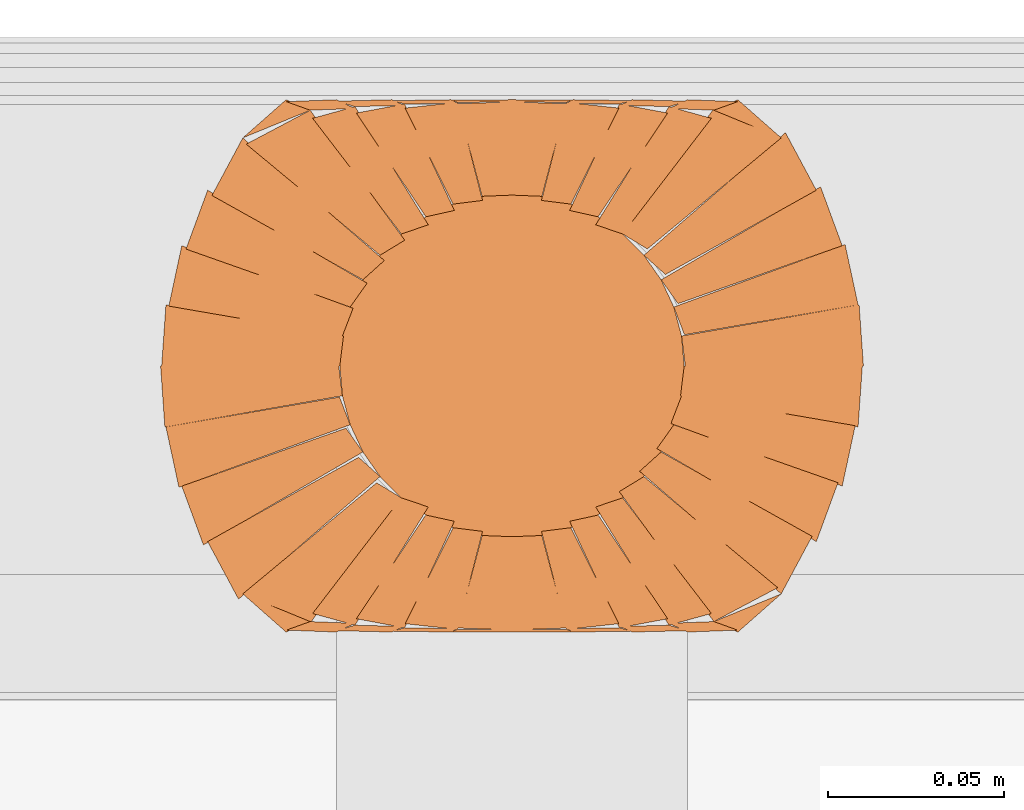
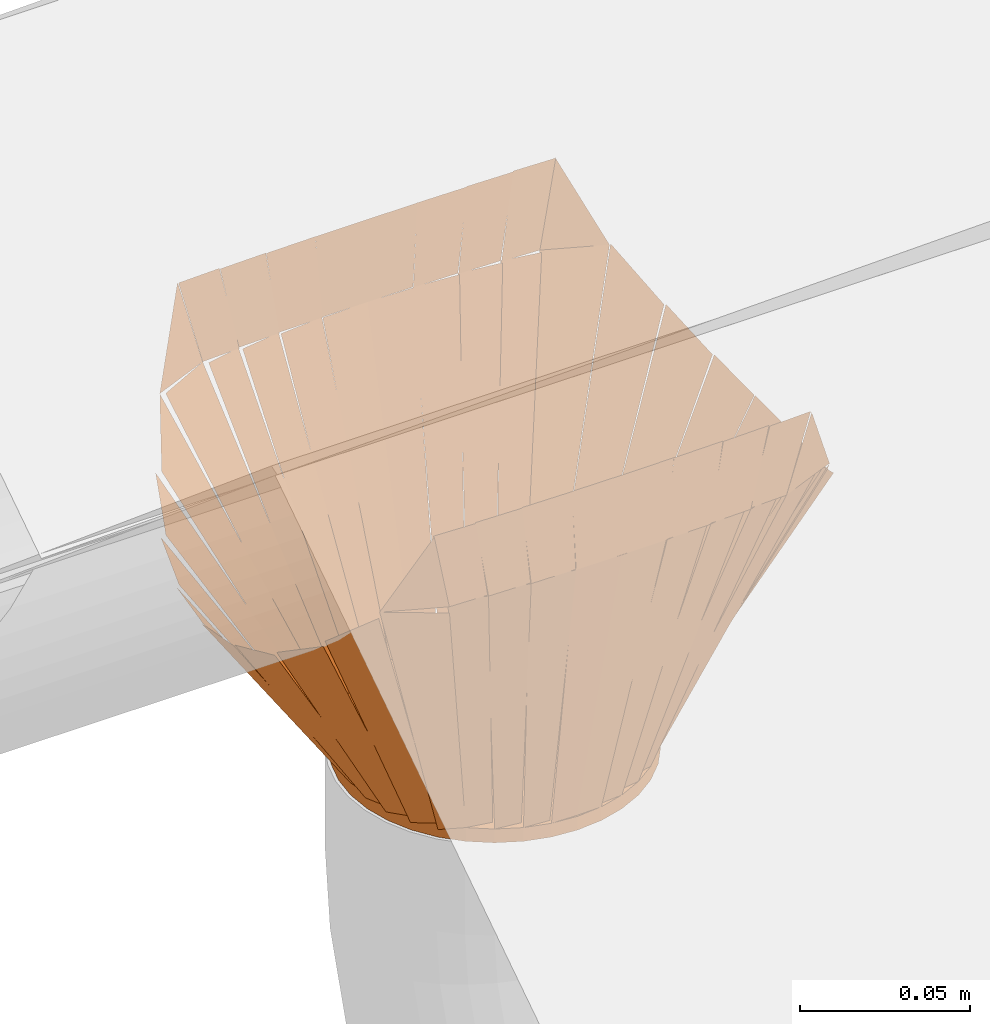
# One storey, part 43 of 43: 1 proxy.
"""IFC2X3 building model written with IfcOpenShell, lengths in millimetres."""

from ifc_helpers import new_model, si_unit, frame, origin_with_axes, place, context, project, spatial, faceted_brep, element, save


model = new_model("IFC2X3")

# Units and contexts
model_context = context("Model", 3, world=origin_with_axes())
ifc_project = project(units=[si_unit("LENGTHUNIT", "METRE", prefix="MILLI")], contexts=[model_context])

# Site, building, storey
site_placement = place(None, origin_with_axes())
site = spatial("IfcSite", under=ifc_project, at=site_placement, Name="Site", CompositionType="ELEMENT")
building_placement = place(site_placement, origin_with_axes())
building = spatial("IfcBuilding", under=site, at=building_placement, Name="?", CompositionType="ELEMENT")
storey_placement = place(building_placement, frame((0.0, 0.0, 5938.0), z_axis=(0.0, 0.0, 1.0), x_axis=(1.0, 0.0, 0.0)))
storey = spatial("IfcBuildingStorey", under=building, at=storey_placement, Name="Dachgeschoß", CompositionType="ELEMENT", Elevation=5938.0)

# Proxy
proxy_placement = place(None, origin_with_axes())
element("IfcBuildingElementProxy", 1, at=proxy_placement, inside=storey, Name="Dach01_Sump#002", ObjectType="sump", CompositionType="ELEMENT", context=model_context, shape_type="Brep", body=[
    faceted_brep([(18150.0, 579.010009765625, 6505.79443359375), (18099.3009021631, 578.967993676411, 6580.93962337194), (18100.51919832, 596.374810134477, 6582.73663250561), (18151.0453037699, 587.476793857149, 6505.99742441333), (18150.744140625, 587.518798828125, 6505.79443359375), (18101.3352258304, 596.022364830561, 6583.29570176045), (18105.0304413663, 613.211998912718, 6588.73663108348), (18153.7711254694, 595.416564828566, 6506.3535043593), (18152.955078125, 595.768981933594, 6505.79443359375), (18106.2325958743, 612.249947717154, 6589.59595129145), (18112.3974771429, 629.00998161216, 6599.73663675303), (18157.7666971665, 602.547947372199, 6506.65374850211), (18156.564453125, 603.510009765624, 6505.79443359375), (18113.6078970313, 627.506340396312, 6600.66517917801), (18122.3952512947, 643.888809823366, 6615.73663103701), (18162.674199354, 609.002940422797, 6506.72298136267), (18161.462890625, 610.506591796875, 6505.79443359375), (18123.3709635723, 642.11923380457, 6616.57727050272), (18141.5741907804, 651.762690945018, 6615.73663044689), (18168.4787639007, 614.776634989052, 6506.63507364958), (18167.50390625, 616.546203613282, 6505.79443359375), (18142.2620586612, 649.473509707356, 6616.57347435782), (18154.3318061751, 652.786904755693, 6615.73663420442), (18175.1869588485, 619.156008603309, 6506.63127382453), (18174.5, 621.445190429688, 6505.79443359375), (18154.6954994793, 650.963182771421, 6616.28910531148), (18168.444800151, 653.541589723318, 6615.73663567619), (18182.6051987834, 623.231183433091, 6506.3469032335), (18182.240234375, 625.054870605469, 6505.79443359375), (18168.5781089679, 652.373219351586, 6616.04275099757), (18183.4859343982, 654.003770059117, 6615.73663149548), (18190.6245093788, 626.097219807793, 6506.10055309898), (18190.490234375, 627.265625, 6505.79443359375), (18183.5007801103, 653.602238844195, 6615.83370153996), (18198.9990342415, 654.159424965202, 6615.7366309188), (18199.0140798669, 627.608438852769, 6505.89150420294), (18207.509765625, 627.265625, 6505.79443359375), (18198.9859201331, 627.608438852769, 6505.89150420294), (18199.0009657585, 654.159424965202, 6615.7366309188), (18214.4992198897, 653.602238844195, 6615.83370153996), (18215.759765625, 625.05487060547, 6505.79443359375), (18207.3754906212, 626.097219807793, 6506.10055309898), (18214.5140656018, 654.003770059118, 6615.73663149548), (18229.4218910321, 652.373219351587, 6616.04275099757), (18223.5, 621.445190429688, 6505.79443359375), (18215.3948012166, 623.23118343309, 6506.3469032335), (18229.555199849, 653.541589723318, 6615.73663567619), (18243.3045005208, 650.96318277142, 6616.28910531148), (18230.49609375, 616.546203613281, 6505.79443359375), (18222.8130411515, 619.156008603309, 6506.63127382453), (18243.6681938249, 652.786904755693, 6615.73663420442), (18255.7379413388, 649.473509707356, 6616.57347435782), (18230.49609375, 616.546203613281, 6505.79443359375), (18257.4006668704, 653.532259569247, 6614.89599039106), (18275.6038940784, 643.8888024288, 6615.73663044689), (18237.5119670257, 612.276160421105, 6504.95379353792), (18236.537109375, 610.506591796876, 6505.79443359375), (18276.8160574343, 645.392461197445, 6614.80808326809), (18285.6034116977, 629.009991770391, 6599.73663140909), (18242.646855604, 605.013661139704, 6504.86588582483), (18241.435546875, 603.510009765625, 6505.79443359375), (18286.8047668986, 629.972044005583, 6598.87732184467), (18292.9696481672, 613.212010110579, 6588.7366363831), (18246.2471659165, 596.731044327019, 6504.93511868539), (18245.044921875, 595.768981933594, 6505.79443359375), (18293.7856120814, 613.564421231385, 6588.17755842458), (18297.48081917, 596.374881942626, 6582.73663496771), (18248.0719145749, 587.871220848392, 6505.23535685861), (18247.255859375, 587.518798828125, 6505.79443359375), (18297.7819585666, 596.416914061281, 6582.5336459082), (18299.000257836, 579.009999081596, 6580.73663465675), (18248.3011600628, 579.052014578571, 6505.59144481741), (18248.0, 579.010009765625, 6505.79443359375), (18298.6991032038, 579.052025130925, 6580.93961803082), (18297.4808005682, 561.645209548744, 6582.73663139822), (18246.9547025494, 570.543325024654, 6505.99742015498), (18247.255859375, 570.501281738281, 6505.79443359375), (18296.6647566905, 561.997622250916, 6583.29571912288), (18292.9695595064, 544.807981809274, 6588.7366358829), (18244.228856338, 562.603422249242, 6506.35351666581), (18245.044921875, 562.250976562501, 6505.79443359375), (18291.7673797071, 545.770016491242, 6589.59596421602), (18285.6026211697, 529.009975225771, 6599.73663640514), (18240.2333806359, 555.472017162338, 6506.65376173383), (18241.435546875, 554.510009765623, 6505.79443359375), (18284.3921178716, 530.513671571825, 6600.66517290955), (18275.6047458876, 514.131308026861, 6615.73663441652), (18235.3257184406, 549.017072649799, 6506.72297220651), (18236.537109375, 547.513427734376, 6505.79443359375), (18274.6291411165, 515.900862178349, 6616.5772624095), (18256.4259092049, 506.257327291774, 6615.7366306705), (18229.5212414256, 543.243362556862, 6506.63506533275), (18230.49609375, 541.473815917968, 6505.79443359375), (18255.7380417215, 508.546520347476, 6616.5734784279), (18243.668193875, 505.233114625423, 6615.73663476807), (18222.813041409, 538.864021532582, 6506.63127727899), (18223.5, 536.574829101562, 6505.79443359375), (18243.3045005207, 507.056836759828, 6616.28910531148), (18229.555199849, 504.478429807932, 6615.73663567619), (18215.3948012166, 534.788836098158, 6506.3469032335), (18215.759765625, 532.965087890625, 6505.79443359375), (18229.4218910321, 505.646739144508, 6616.04275099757), (18214.5140656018, 504.016188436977, 6615.73663149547), (18207.3754906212, 531.9227386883, 6506.10055309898), (18207.509765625, 530.75439453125, 6505.79443359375), (18214.4992198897, 504.417780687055, 6615.83370153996), (18199.0009657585, 503.860594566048, 6615.7366309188), (18198.9859201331, 530.411580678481, 6505.89150420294), (18190.4921875, 530.75439453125, 6505.79443359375), (18199.0159332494, 530.411581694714, 6505.89150445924), (18199.0008874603, 503.86059390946, 6615.73663117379), (18183.5027333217, 504.417781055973, 6615.83370203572), (18182.240234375, 532.965087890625, 6505.79443359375), (18190.6246081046, 531.922732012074, 6506.10055124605), (18183.4860344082, 504.016188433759, 6615.73663560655), (18168.5782075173, 505.646732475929, 6616.04275325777), (18174.5, 536.57470703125, 6505.79443359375), (18182.6051803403, 534.788761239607, 6506.34688478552), (18168.4448998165, 504.478405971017, 6615.73663578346), (18154.6955794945, 507.056760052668, 6616.28908697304), (18167.50390625, 541.473815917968, 6505.79443359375), (18175.1869841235, 538.863968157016, 6506.63129507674), (18154.3319061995, 505.233115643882, 6615.73663264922), (18142.2620839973, 508.546568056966, 6616.57349410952), (18167.50390625, 541.473815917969, 6505.79443359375), (18140.5993331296, 504.487759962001, 6614.89599039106), (18122.3961059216, 514.13121710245, 6615.73663044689), (18160.4880329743, 545.743859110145, 6504.95379353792), (18161.462890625, 547.513427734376, 6505.79443359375), (18121.1839375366, 512.627539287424, 6614.80807921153), (18112.3965911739, 529.009928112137, 6599.73663630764), (18155.3531362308, 553.006338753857, 6504.86587603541), (18156.564453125, 554.510009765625, 6505.79443359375), (18111.195245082, 528.047891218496, 6598.87732511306), (18105.0304521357, 544.807910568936, 6588.73663091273), (18151.7528460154, 561.288990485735, 6504.93512814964), (18152.955078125, 562.250976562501, 6505.79443359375), (18104.2144727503, 544.455431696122, 6588.17755185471), (18100.5191762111, 561.645076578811, 6582.73663560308), (18149.928075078, 570.148731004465, 6505.23534983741), (18150.744140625, 570.501220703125, 6505.79443359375), (18100.2180414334, 561.603105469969, 6582.5336459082), (18098.999742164, 579.010020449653, 6580.73663465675), (18149.6988399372, 578.968004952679, 6505.59144481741), (18141.57421875, 651.7626953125, 6615.736328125), (18122.3947181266, 643.888794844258, 6615.736328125), (18134.7203185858, 654.749995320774, 6645.00632737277), (18149.0, 654.75, 6645.00634765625), (18154.3515904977, 652.251305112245, 6615.78586307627), (18141.5751001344, 651.76269994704, 6615.73634729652), (18134.7414908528, 654.214405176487, 6645.05586343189), (18164.798828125, 654.75, 6645.00634765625), (18168.4556450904, 653.144589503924, 6615.7593924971), (18154.3321282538, 652.786899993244, 6615.7363475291), (18149.0108453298, 654.352989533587, 6645.02939262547), (18181.634765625, 654.75, 6645.00634765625), (18183.4897999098, 653.760031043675, 6615.74481863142), (18168.4443656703, 653.541600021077, 6615.73634744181), (18164.801099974, 654.506231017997, 6645.01481884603), (18199.0, 654.75, 6645.00634765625), (18199.0003887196, 654.077264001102, 6615.73823528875), (18183.4867001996, 654.003800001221, 6615.73634736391), (18181.635588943, 654.667863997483, 6645.00823558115), (18214.513671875, 654.003784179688, 6615.736328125), (18198.999983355, 654.077248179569, 6615.73821604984), (18199.0003720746, 654.749984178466, 6645.00632841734), (18216.3647831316, 654.66784817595, 6645.00821634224), (18229.5546875, 653.541625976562, 6615.736328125), (18214.5092532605, 653.760056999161, 6615.74479931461), (18216.3642875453, 654.750025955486, 6645.00632833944), (18233.1979531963, 654.506256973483, 6645.01479952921), (18243.66796875, 652.786926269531, 6615.736328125), (18229.5444519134, 653.144615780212, 6615.75937309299), (18233.2012688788, 654.750026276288, 6645.00632825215), (18248.989251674, 654.353015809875, 6645.02937322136), (18256.42578125, 651.7626953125, 6615.736328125), (18243.6492908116, 652.251302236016, 6615.78584371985), (18249.0008813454, 654.749995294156, 6645.00632838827), (18263.2592905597, 654.214402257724, 6645.05584398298), (18275.603515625, 643.888793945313, 6615.736328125), (18256.4240150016, 651.762694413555, 6615.736328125), (18263.2778151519, 654.749994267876, 6645.00632773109), (18256.42578125, 506.257293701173, 6615.736328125), (18275.6052811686, 514.131293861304, 6615.736328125), (18263.279581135, 503.269993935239, 6645.00632830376), (18249.0, 503.269989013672, 6645.00634765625), (18243.6484096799, 505.768681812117, 6615.78586309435), (18256.4249998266, 506.25728894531, 6615.73634755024), (18263.258509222, 503.805581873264, 6645.05586320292), (18233.201171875, 503.269989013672, 6645.00634765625), (18229.5443549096, 504.875399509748, 6615.75939249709), (18243.6678717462, 505.233089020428, 6615.7363475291), (18248.9891546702, 503.666999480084, 6645.02939262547), (18216.365234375, 503.269989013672, 6645.00634765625), (18214.5101000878, 504.259957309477, 6615.74481858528), (18229.5555343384, 504.478389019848, 6615.73634741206), (18233.1988000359, 503.513757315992, 6645.01481882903), (18199.0, 503.269989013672, 6645.00634765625), (18198.9996112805, 503.942725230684, 6615.73823528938), (18214.5132997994, 504.016189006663, 6615.73634735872), (18216.364511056, 503.352125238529, 6645.00823558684), (18183.486328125, 504.016204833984, 6615.736328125), (18198.9999166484, 503.942741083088, 6615.73821605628), (18198.9995279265, 503.27000481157, 6645.00632842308), (18181.6351168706, 503.352141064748, 6645.00821635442), (18168.4453125, 504.478393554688, 6615.736328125), (18183.4907467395, 504.259962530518, 6615.74479932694), (18181.6356124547, 503.269993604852, 6645.00632839), (18164.8019468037, 503.513762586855, 6645.01479959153), (18154.33203125, 505.233093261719, 6615.736328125), (18168.45554812, 504.875402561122, 6615.75937304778), (18164.7986311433, 503.269993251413, 6645.00632834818), (18149.0107483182, 503.667002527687, 6645.02937326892), (18141.57421875, 506.257293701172, 6615.736328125), (18154.3508088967, 505.768686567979, 6615.7858436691), (18148.9992185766, 503.269993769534, 6645.00632823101), (18134.7407093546, 503.805586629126, 6645.05584377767), (18122.396484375, 514.131225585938, 6615.736328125), (18141.5759849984, 506.257325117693, 6615.736328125), (18134.7221848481, 503.270025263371, 6645.00632773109), (18150.0, 579.010009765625, 6500.82421875), (18150.0, 579.010009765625, 6505.79421875), (18150.7444000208, 587.518809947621, 6505.79421875), (18150.7444000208, 587.518809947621, 6500.82421875), (18150.744140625, 587.518798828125, 6500.82421875), (18150.744140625, 587.518798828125, 6505.79421875), (18152.9548405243, 595.76899881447, 6505.79421875), (18152.9548405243, 595.76899881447, 6500.82421875), (18152.955078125, 595.768981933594, 6500.82421875), (18152.955078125, 595.768981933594, 6505.79421875), (18156.5647781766, 603.509981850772, 6505.79421875), (18156.5647781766, 603.509981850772, 6500.82421875), (18156.564453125, 603.510009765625, 6500.82421875), (18156.564453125, 603.510009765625, 6505.79421875), (18161.4634532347, 610.506609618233, 6505.79421875), (18161.4634532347, 610.506609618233, 6500.82421875), (18161.462890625, 610.506591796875, 6500.82421875), (18161.462890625, 610.506591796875, 6505.79421875), (18167.5024905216, 616.546191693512, 6505.79421875), (18167.5024905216, 616.546191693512, 6500.82421875), (18167.50390625, 616.546203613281, 6500.82421875), (18167.50390625, 616.546203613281, 6505.79421875), (18174.5005061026, 621.445203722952, 6505.79421875), (18174.5005061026, 621.445203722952, 6500.82421875), (18174.5, 621.445190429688, 6500.82421875), (18174.5, 621.445190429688, 6505.79421875), (18182.2409999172, 625.054890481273, 6505.79421875), (18182.2409999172, 625.054890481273, 6500.82421875), (18182.240234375, 625.054870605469, 6500.82421875), (18182.240234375, 625.054870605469, 6505.79421875), (18190.4904343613, 627.265570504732, 6505.79421875), (18190.4904343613, 627.265570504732, 6500.82421875), (18190.490234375, 627.265625, 6500.82421875), (18190.490234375, 627.265625, 6505.79421875), (18198.999034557, 628.010025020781, 6505.79421875), (18198.999034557, 628.010025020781, 6500.82421875), (18199.0, 628.010009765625, 6500.82421875), (18199.0, 628.010009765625, 6505.79421875), (18207.508800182, 627.265609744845, 6505.79421875), (18207.508800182, 627.265609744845, 6500.82421875), (18207.509765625, 627.265625, 6500.82421875), (18207.509765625, 627.265625, 6505.79421875), (18215.7599656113, 625.054925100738, 6505.79421875), (18215.7599656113, 625.054925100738, 6500.82421875), (18215.759765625, 625.054870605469, 6500.82421875), (18215.759765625, 625.054870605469, 6505.79421875), (18223.5007655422, 621.445170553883, 6505.79421875), (18223.5007655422, 621.445170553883, 6500.82421875), (18223.5, 621.445190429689, 6500.82421875), (18223.5, 621.445190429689, 6505.79421875), (18230.4965998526, 616.546190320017, 6505.79421875), (18230.4965998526, 616.546190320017, 6500.82421875), (18230.49609375, 616.546203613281, 6500.82421875), (18230.49609375, 616.546203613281, 6505.79421875), (18236.5356936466, 610.506603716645, 6505.79421875), (18236.5356936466, 610.506603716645, 6500.82421875), (18236.537109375, 610.506591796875, 6500.82421875), (18236.537109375, 610.506591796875, 6505.79421875), (18241.4361094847, 603.509991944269, 6505.79421875), (18241.4361094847, 603.509991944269, 6500.82421875), (18241.435546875, 603.510009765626, 6500.82421875), (18241.435546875, 603.510009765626, 6505.79421875), (18245.0452469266, 595.769009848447, 6505.79421875), (18245.0452469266, 595.769009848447, 6500.82421875), (18245.044921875, 595.768981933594, 6500.82421875), (18245.044921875, 595.768981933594, 6505.79421875), (18247.2556217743, 587.518781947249, 6505.79421875), (18247.2556217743, 587.518781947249, 6500.82421875), (18247.255859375, 587.518798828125, 6500.82421875), (18247.255859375, 587.518798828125, 6505.79421875), (18248.0002593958, 579.009998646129, 6505.79421875), (18248.0002593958, 579.009998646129, 6500.82421875), (18248.0, 579.010009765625, 6500.82421875), (18248.0, 579.010009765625, 6505.79421875), (18247.2556000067, 570.501309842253, 6505.79421875), (18247.2556000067, 570.501309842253, 6500.82421875), (18247.255859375, 570.501281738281, 6500.82421875), (18247.255859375, 570.501281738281, 6505.79421875), (18245.0451594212, 562.250981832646, 6505.79421875), (18245.0451594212, 562.250981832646, 6500.82421875), (18245.044921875, 562.2509765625, 6500.82421875), (18245.044921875, 562.2509765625, 6505.79421875), (18241.4353219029, 554.509976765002, 6505.79421875), (18241.4353219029, 554.509976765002, 6500.82421875), (18241.435546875, 554.510009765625, 6500.82421875), (18241.435546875, 554.510009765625, 6505.79421875), (18236.5364466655, 547.513409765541, 6505.79421875), (18236.5364466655, 547.513409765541, 6500.82421875), (18236.537109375, 547.513427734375, 6500.82421875), (18236.537109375, 547.513427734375, 6505.79421875), (18230.4975094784, 541.473827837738, 6505.79421875), (18230.4975094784, 541.473827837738, 6500.82421875), (18230.49609375, 541.473815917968, 6500.82421875), (18230.49609375, 541.473815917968, 6505.79421875), (18223.4994938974, 536.574815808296, 6505.79421875), (18223.4994938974, 536.574815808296, 6500.82421875), (18223.5, 536.574829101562, 6500.82421875), (18223.5, 536.574829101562, 6505.79421875), (18215.7590000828, 532.965129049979, 6505.79421875), (18215.7590000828, 532.965129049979, 6500.82421875), (18215.759765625, 532.965087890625, 6500.82421875), (18215.759765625, 532.965087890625, 6505.79421875), (18207.5095656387, 530.754387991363, 6505.79421875), (18207.5095656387, 530.754387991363, 6500.82421875), (18207.509765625, 530.75439453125, 6500.82421875), (18207.509765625, 530.75439453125, 6505.79421875), (18199.000965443, 530.00999451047, 6505.79421875), (18199.000965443, 530.00999451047, 6500.82421875), (18199.0, 530.010009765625, 6500.82421875), (18199.0, 530.010009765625, 6505.79421875), (18190.4913000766, 530.754409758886, 6505.79421875), (18190.4913000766, 530.754409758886, 6500.82421875), (18190.4921875, 530.754394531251, 6500.82421875), (18190.4921999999, 530.754441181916, 6505.79421874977), (18182.2418873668, 532.965094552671, 6505.79421875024), (18182.2418998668, 532.96504120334, 6500.82421874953), (18182.240234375, 532.965026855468, 6500.82421875), (18182.240215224, 532.965085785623, 6505.79421875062), (18174.4992342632, 536.574726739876, 6505.79421875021), (18174.4992151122, 536.574685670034, 6500.82421875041), (18174.5, 536.57470703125, 6500.82421875), (18174.5, 536.57470703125, 6505.79421875), (18167.5033999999, 541.473807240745, 6505.79421875), (18167.5033999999, 541.473807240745, 6500.82421875), (18167.50390625, 541.473815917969, 6500.82421875), (18167.50390625, 541.473815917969, 6505.79421875), (18161.4643063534, 547.513415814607, 6505.79421875), (18161.4643063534, 547.513415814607, 6500.82421875), (18161.462890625, 547.513427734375, 6500.82421875), (18161.462890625, 547.513427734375, 6505.79421875), (18156.5638905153, 554.510027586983, 6505.79421875), (18156.5638905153, 554.510027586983, 6500.82421875), (18156.564453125, 554.510009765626, 6500.82421875), (18156.564453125, 554.510009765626, 6505.79421875), (18152.9547530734, 562.251009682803, 6505.79421875), (18152.9547530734, 562.251009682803, 6500.82421875), (18152.955078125, 562.2509765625, 6500.82421875), (18152.955078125, 562.2509765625, 6505.79421875), (18150.7443782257, 570.501176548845, 6505.79421875), (18150.7443782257, 570.501176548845, 6500.82421875), (18150.744140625, 570.501220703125, 6500.82421875), (18150.744140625, 570.501220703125, 6505.79421875), (18149.9997406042, 579.01002088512, 6505.79421875), (18149.9997406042, 579.01002088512, 6500.82421875), (18152.955078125, 562.2509765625, 6500.82421875), (18149.999978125, 579.0099765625, 6500.82421875), (18161.463778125, 547.5133765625, 6500.82421875), (18156.564778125, 554.5099765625, 6500.82421875), (18161.462890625, 547.513427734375, 6500.82421875), (18190.490390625, 530.754427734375, 6500.82421875), (18174.499090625, 536.574727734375, 6500.82421875), (18167.502490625, 541.473827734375, 6500.82421875), (18174.5, 536.57470703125, 6500.82421875), (18190.4913, 530.75440703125, 6500.82421875), (18182.241, 532.96500703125, 6500.82421875), (18190.4921875, 530.75439453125, 6500.82421875), (18223.5008875, 536.57479453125, 6500.82421875), (18207.5096875, 530.75439453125, 6500.82421875), (18199.0008875, 530.00999453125, 6500.82421875), (18207.509765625, 530.75439453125, 6500.82421875), (18223.500965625, 536.57479453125, 6500.82421875), (18215.759965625, 532.96509453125, 6500.82421875), (18223.5, 536.574829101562, 6500.82421875), (18245.0449, 562.251029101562, 6500.82421875), (18236.5362, 547.513429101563, 6500.82421875), (18230.4966, 541.473829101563, 6500.82421875), (18236.537109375, 547.513427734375, 6500.82421875), (18245.045809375, 562.251027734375, 6500.82421875), (18241.436209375, 554.510027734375, 6500.82421875), (18190.4921875, 530.75439453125, 6500.82421875), (18161.4646875, 610.50659453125, 6500.82421875), (18245.0457875, 562.25099453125, 6500.82421875), (18223.5008875, 536.57479453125, 6500.82421875), (18245.044921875, 562.2509765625, 6500.82421875), (18245.044921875, 595.7689765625, 6500.82421875), (18248.000021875, 579.0099765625, 6500.82421875), (18247.255621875, 570.5012765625, 6500.82421875), (18248.0, 579.010009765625, 6500.82421875), (18245.0449, 595.769009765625, 6500.82421875), (18247.2556, 587.518809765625, 6500.82421875), (18245.044921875, 595.768981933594, 6500.82421875), (18223.500021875, 621.445181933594, 6500.82421875), (18236.536221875, 610.506581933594, 6500.82421875), (18241.435221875, 603.509981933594, 6500.82421875), (18236.537109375, 610.506591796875, 6500.82421875), (18223.500909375, 621.445191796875, 6500.82421875), (18230.497509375, 616.546191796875, 6500.82421875), (18245.044921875, 562.2509765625, 6500.82421875), (18161.463821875, 610.5065765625, 6500.82421875), (18223.500021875, 621.4451765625, 6500.82421875), (18245.044921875, 595.7689765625, 6500.82421875), (18223.5, 621.445190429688, 6500.82421875), (18190.4912, 627.265590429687, 6500.82421875), (18207.5088, 627.265590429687, 6500.82421875), (18215.759, 625.054890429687, 6500.82421875), (18207.509765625, 627.265625, 6500.82421875), (18190.492165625, 627.265625, 6500.82421875), (18199.000965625, 628.010025, 6500.82421875), (18190.490234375, 627.265625, 6500.82421875), (18161.462834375, 610.506625, 6500.82421875), (18174.499034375, 621.445225, 6500.82421875), (18182.240034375, 625.054925, 6500.82421875), (18174.5, 621.445190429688, 6500.82421875), (18161.4638, 610.506590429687, 6500.82421875), (18167.5034, 616.546190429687, 6500.82421875), (18223.5, 621.445190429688, 6500.82421875), (18161.4638, 610.506590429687, 6500.82421875), (18190.4912, 627.265590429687, 6500.82421875), (18161.462890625, 610.506591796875, 6500.82421875), (18149.999090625, 579.009991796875, 6500.82421875), (18152.954190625, 595.768991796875, 6500.82421875), (18156.563890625, 603.509991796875, 6500.82421875), (18152.955078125, 595.768981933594, 6500.82421875), (18149.999978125, 579.009981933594, 6500.82421875), (18150.744378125, 587.518781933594, 6500.82421875), (18190.4921875, 530.75439453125, 6500.82421875), (18161.4646875, 547.51339453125, 6500.82421875), (18150.0008875, 579.00999453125, 6500.82421875), (18161.4646875, 610.50659453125, 6500.82421875), (18150.744140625, 570.501220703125, 6500.82421875), (18149.999740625, 579.010020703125, 6500.82421875), (18152.954840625, 562.251020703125, 6500.82421875), (18150.744140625, 587.518798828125, 6505.79443359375), (18150.744140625, 570.501198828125, 6505.79443359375), (18156.564540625, 603.509998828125, 6505.79443359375), (18152.954840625, 595.768998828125, 6505.79443359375), (18156.564453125, 603.510009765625, 6505.79443359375), (18182.240653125, 625.054909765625, 6505.79443359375), (18167.503053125, 616.546209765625, 6505.79443359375), (18161.463453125, 610.506609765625, 6505.79443359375), (18167.50390625, 616.546203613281, 6505.79443359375), (18182.24150625, 625.054903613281, 6505.79443359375), (18174.50050625, 621.445203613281, 6505.79443359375), (18182.240234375, 625.054870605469, 6505.79443359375), (18215.758234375, 625.054870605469, 6505.79443359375), (18198.999234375, 628.009970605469, 6505.79443359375), (18190.490434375, 627.265570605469, 6505.79443359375), (18199.0, 628.010009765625, 6505.79443359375), (18215.759, 625.054909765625, 6505.79443359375), (18207.5088, 627.265609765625, 6505.79443359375), (18215.759765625, 625.054870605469, 6505.79443359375), (18241.435965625, 603.509970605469, 6505.79443359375), (18230.497365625, 616.546170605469, 6505.79443359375), (18223.500765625, 621.445170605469, 6505.79443359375), (18230.49609375, 616.546203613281, 6505.79443359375), (18241.43469375, 603.510003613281, 6505.79443359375), (18236.53569375, 610.506603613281, 6505.79443359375), (18182.240234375, 625.054870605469, 6505.79443359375), (18167.502634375, 541.473770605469, 6505.79443359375), (18241.434434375, 603.509970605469, 6505.79443359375), (18215.758234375, 625.054870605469, 6505.79443359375), (18241.435546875, 603.510009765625, 6505.79443359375), (18247.255946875, 570.501309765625, 6505.79443359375), (18247.255946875, 587.518809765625, 6505.79443359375), (18245.045246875, 595.769009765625, 6505.79443359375), (18247.255859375, 587.518798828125, 6505.79443359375), (18247.255859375, 570.501298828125, 6505.79443359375), (18248.000259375, 579.009998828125, 6505.79443359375), (18247.255859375, 570.501281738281, 6505.79443359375), (18230.496859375, 541.473781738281, 6505.79443359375), (18241.435559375, 554.509981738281, 6505.79443359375), (18245.045159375, 562.250981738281, 6505.79443359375), (18241.435546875, 554.510009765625, 6505.79443359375), (18230.496846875, 541.473809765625, 6505.79443359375), (18236.536446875, 547.513409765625, 6505.79443359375), (18241.435546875, 603.510009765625, 6505.79443359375), (18167.503746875, 541.473809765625, 6505.79443359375), (18230.496946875, 541.473809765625, 6505.79443359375), (18247.255946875, 570.501309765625, 6505.79443359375), (18230.49609375, 541.473815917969, 6505.79443359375), (18198.99949375, 530.010015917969, 6505.79443359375), (18215.75849375, 532.965115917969, 6505.79443359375), (18223.49949375, 536.574815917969, 6505.79443359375), (18215.759765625, 532.965087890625, 6505.79443359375), (18199.000765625, 530.009987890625, 6505.79443359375), (18207.509565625, 530.754387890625, 6505.79443359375), (18199.0, 530.010009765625, 6505.79443359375), (18167.5034, 541.473809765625, 6505.79443359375), (18182.241, 532.965109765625, 6505.79443359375), (18190.4913, 530.754409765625, 6505.79443359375), (18182.240234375, 532.965087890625, 6505.79443359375), (18167.502634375, 541.473787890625, 6505.79443359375), (18174.499234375, 536.574687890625, 6505.79443359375), (18230.49609375, 541.473815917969, 6505.79443359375), (18167.50289375, 541.473815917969, 6505.79443359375), (18198.99949375, 530.010015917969, 6505.79443359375), (18167.50390625, 541.473815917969, 6505.79443359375), (18150.74490625, 570.501215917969, 6505.79443359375), (18156.56530625, 554.510015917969, 6505.79443359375), (18161.46430625, 547.513415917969, 6505.79443359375), (18156.564453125, 554.510009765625, 6505.79443359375), (18150.744053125, 570.501209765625, 6505.79443359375), (18152.954753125, 562.251009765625, 6505.79443359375), (18182.240234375, 625.054870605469, 6505.79443359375), (18156.564034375, 603.509970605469, 6505.79443359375), (18150.743634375, 570.501170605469, 6505.79443359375), (18167.502634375, 541.473770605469, 6505.79443359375), (18150.0, 579.010009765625, 6505.79443359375), (18150.7444, 570.501209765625, 6505.79443359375), (18150.7444, 587.518809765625, 6505.79443359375)], [[[0, 1, 2, 3]], [[4, 5, 6, 7]], [[8, 9, 10, 11]], [[12, 13, 14, 15]], [[16, 17, 18, 19]], [[20, 21, 22, 23]], [[24, 25, 26, 27]], [[28, 29, 30, 31]], [[32, 33, 34, 35]], [[36, 37, 38, 39]], [[40, 41, 42, 43]], [[44, 45, 46, 47]], [[48, 49, 50, 51]], [[52, 53, 54, 55]], [[56, 57, 58, 59]], [[60, 61, 62, 63]], [[64, 65, 66, 67]], [[68, 69, 70, 71]], [[72, 73, 74, 75]], [[76, 77, 78, 79]], [[80, 81, 82, 83]], [[84, 85, 86, 87]], [[88, 89, 90, 91]], [[92, 93, 94, 95]], [[96, 97, 98, 99]], [[100, 101, 102, 103]], [[104, 105, 106, 107]], [[108, 109, 110, 111]], [[112, 113, 114, 115]], [[116, 117, 118, 119]], [[120, 121, 122, 123]], [[124, 125, 126, 127]], [[128, 129, 130, 131]], [[132, 133, 134, 135]], [[136, 137, 138, 139]], [[140, 141, 142, 143]], [[144, 145, 146]], [[147, 148, 149, 150]], [[151, 152, 153, 154]], [[155, 156, 157, 158]], [[159, 160, 161, 162]], [[163, 164, 165, 166]], [[167, 168, 169, 170]], [[171, 172, 173, 174]], [[175, 176, 177, 178]], [[179, 180, 181]], [[182, 183, 184]], [[185, 186, 187, 188]], [[189, 190, 191, 192]], [[193, 194, 195, 196]], [[197, 198, 199, 200]], [[201, 202, 203, 204]], [[205, 206, 207, 208]], [[209, 210, 211, 212]], [[213, 214, 215, 216]], [[217, 218, 219]], [[220, 221, 222, 223]], [[224, 225, 226, 227]], [[228, 229, 230, 231]], [[232, 233, 234, 235]], [[236, 237, 238, 239]], [[240, 241, 242, 243]], [[244, 245, 246, 247]], [[248, 249, 250, 251]], [[252, 253, 254, 255]], [[256, 257, 258, 259]], [[260, 261, 262, 263]], [[264, 265, 266, 267]], [[268, 269, 270, 271]], [[272, 273, 274, 275]], [[276, 277, 278, 279]], [[280, 281, 282, 283]], [[284, 285, 286, 287]], [[288, 289, 290, 291]], [[292, 293, 294, 295]], [[296, 297, 298, 299]], [[300, 301, 302, 303]], [[304, 305, 306, 307]], [[308, 309, 310, 311]], [[312, 313, 314, 315]], [[316, 317, 318, 319]], [[320, 321, 322, 323]], [[324, 325, 326, 327]], [[328, 329, 330, 331]], [[332, 333, 334, 335]], [[336, 337, 338, 339]], [[340, 341, 342, 343]], [[344, 345, 346, 347]], [[348, 349, 350, 351]], [[352, 353, 354, 355]], [[356, 357, 358, 359]], [[360, 361, 362, 363]], [[364, 365, 366, 367]], [[368, 369, 370, 371]], [[372, 373, 374]], [[375, 376, 377, 378]], [[379, 380, 381]], [[382, 383, 384, 385]], [[386, 387, 388]], [[389, 390, 391, 392]], [[393, 394, 395, 396]], [[397, 398, 399]], [[400, 401, 402, 403]], [[404, 405, 406]], [[407, 408, 409, 410]], [[411, 412, 413, 414]], [[415, 416, 417]], [[418, 419, 420, 421]], [[422, 423, 424]], [[425, 426, 427]], [[428, 429, 430, 431]], [[432, 433, 434]], [[435, 436, 437, 438]], [[439, 440, 441]], [[442, 443, 444, 445]], [[446, 447, 448, 449]], [[450, 451, 452]], [[453, 454, 455, 456]], [[457, 458, 459]], [[460, 461, 462, 463]], [[464, 465, 466]], [[467, 468, 469, 470]], [[471, 472, 473, 474]], [[475, 476, 477]], [[478, 479, 480, 481]], [[482, 483, 484]], [[485, 486, 487, 488]], [[489, 490, 491, 492]], [[493, 494, 495]], [[496, 497, 498, 499]], [[500, 501, 502]], [[503, 504, 505]], [[506, 507, 508, 509]], [[510, 511, 512]], [[513, 514, 515, 516]], [[517, 518, 519]]]),
])

save(model, "model.ifc")
